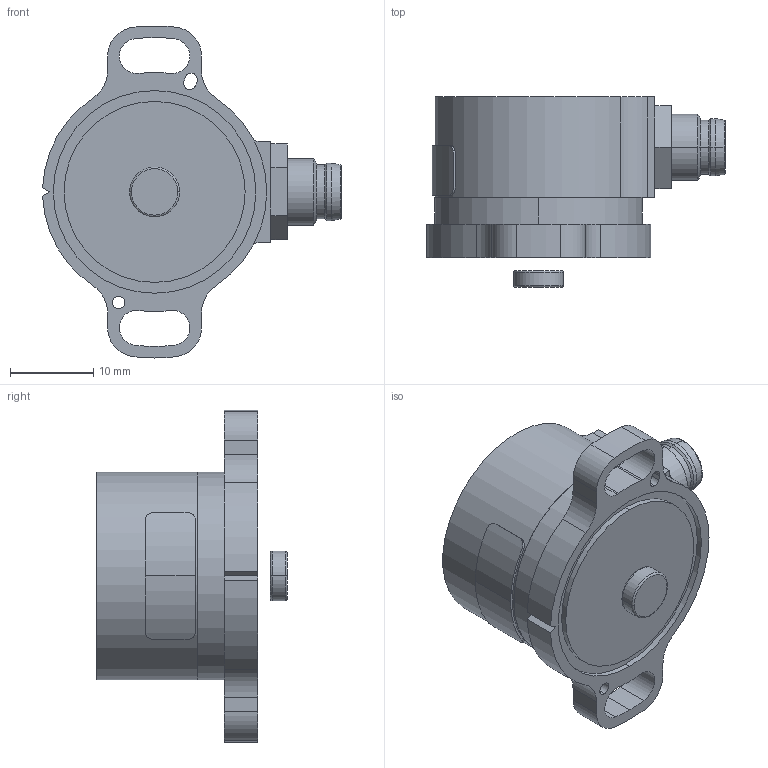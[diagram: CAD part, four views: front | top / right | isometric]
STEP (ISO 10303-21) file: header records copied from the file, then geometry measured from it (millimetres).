
FILE_DESCRIPTION (( 'STEP AP203' ), '1' );
FILE_NAME ('HTx Kit M8 R S.STEP', '2022-07-29T10:28:54', ( '' ), ( '' ), 'SwSTEP 2.0', 'SolidWorks 2022', '' );
FILE_SCHEMA (( 'CONFIG_CONTROL_DESIGN' ));
Length unit declared in the file: millimetre
Products named in the file (1): HTx Kit M8 R S
Bounding box: 35.99 x 22.9 x 39.98 mm (x, y, z)
Surface area: 4060.1 mm2 (no closed solid volume)
Topology: 0 solids, 13 shells, 141 faces, 376 edges, 239 vertices
Faces by surface type: cylinder 75, plane 35, bspline 19, cone 8, torus 4
Entity records: 4781 total; most frequent: CARTESIAN_POINT 1219, DIRECTION 789, ORIENTED_EDGE 675, EDGE_CURVE 360, AXIS2_PLACEMENT_3D 321, VERTEX_POINT 239, CIRCLE 198, EDGE_LOOP 158
